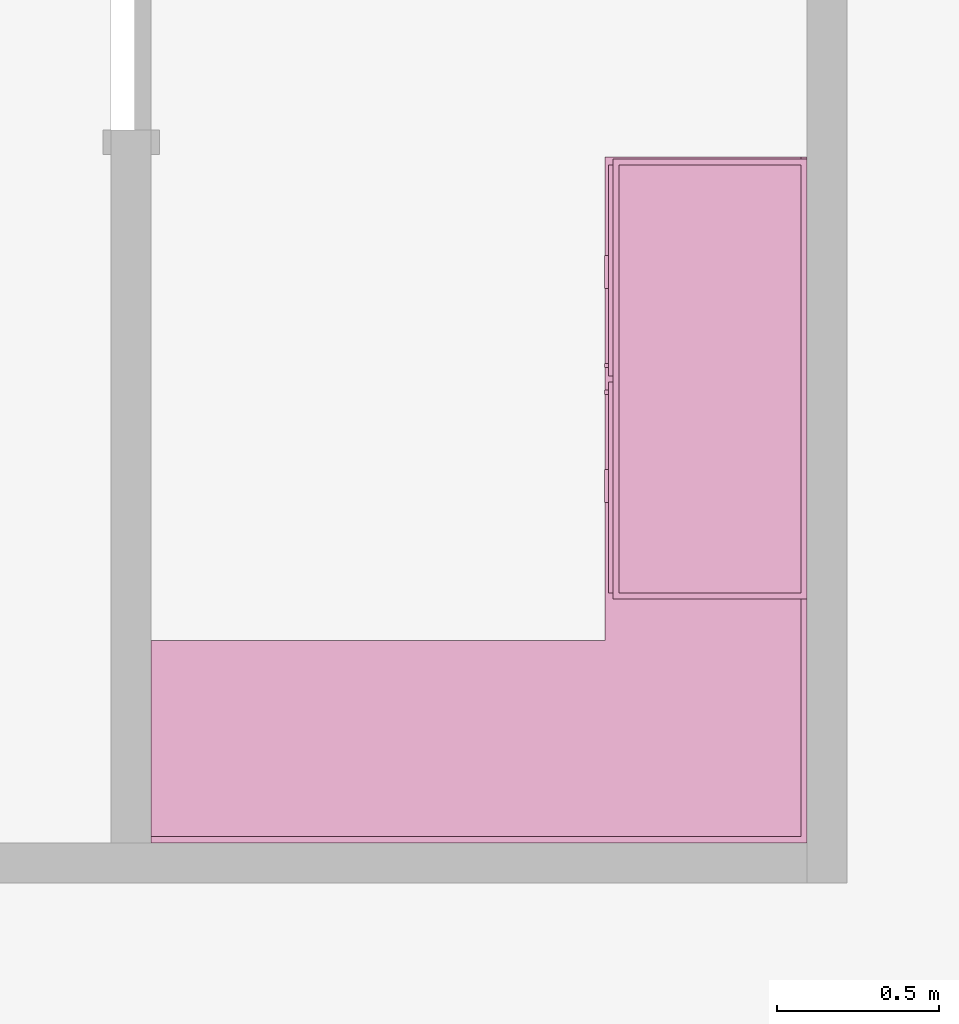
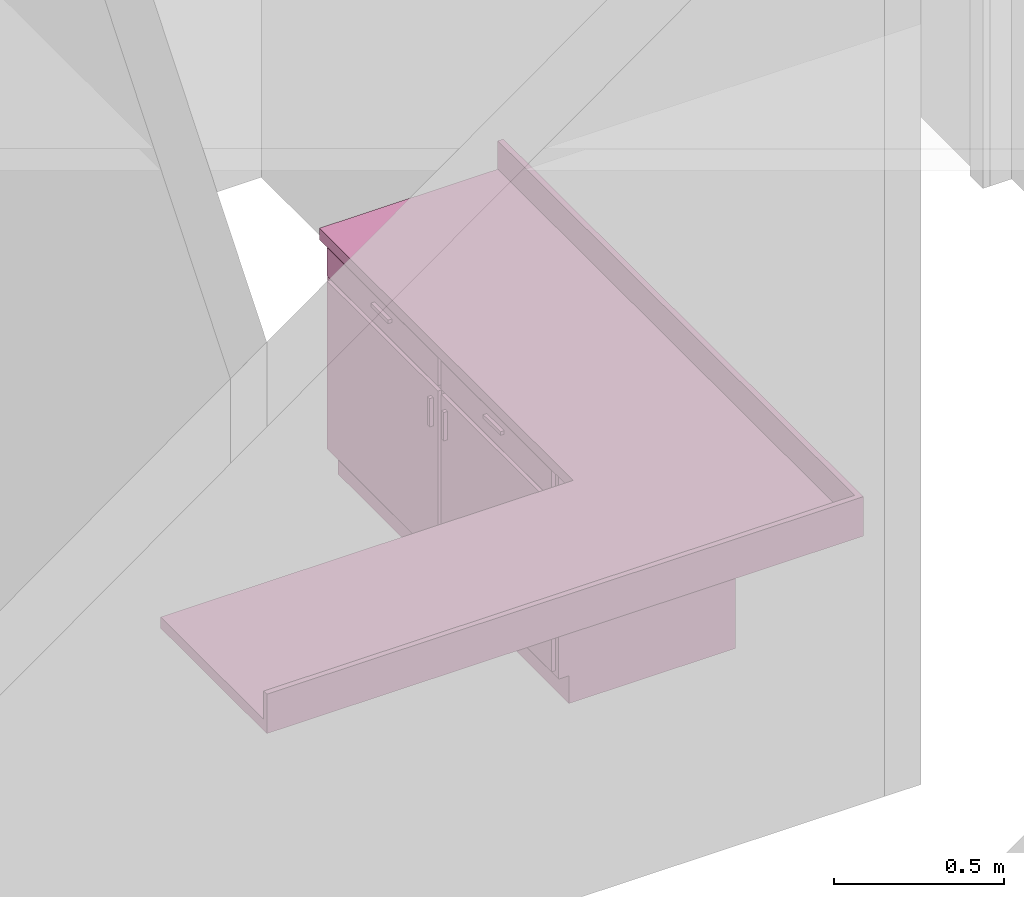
# One storey, part 45 of 45: 2 furnishings.
"""IFC2X3 building model written with IfcOpenShell, lengths in metres."""

from ifc_helpers import new_model, entity, si_unit, converted_unit, frame, origin, place, context, project, spatial, face_set, surface_model, source, transform, mapped, type_object, type_shapes, element, save


model = new_model("IFC2X3")

# Units and contexts
model_context = context("Model", 3, precision=1e-09, world=origin())
plan_context = context("Plan", 3, precision=1e-09, world=origin())
ifc_project = project(units=[si_unit("LENGTHUNIT", "METRE"), si_unit("AREAUNIT", "SQUARE_METRE"), si_unit("VOLUMEUNIT", "CUBIC_METRE"), converted_unit("PLANEANGLEUNIT", "DEGREE", entity("IfcRatioMeasure", 0.01745329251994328), si_unit("PLANEANGLEUNIT", "RADIAN"), dimensions=[0, 0, 0, 0, 0, 0, 0]), si_unit("TIMEUNIT", "SECOND")], contexts=[model_context, plan_context])

# Site, building, storey, space
site_placement = place(None, origin())
site = spatial("IfcSite", under=ifc_project, at=site_placement, Name="Default", CompositionType="ELEMENT")
building_placement = place(site_placement, origin())
building = spatial("IfcBuilding", under=site, at=building_placement, CompositionType="ELEMENT")
storey_placement = place(building_placement, frame((0.0, 0.0, 4.570000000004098)))
storey = spatial("IfcBuildingStorey", under=building, at=storey_placement, Name="Second Floor", CompositionType="ELEMENT", Elevation=4.570000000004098)
space_placement = place(storey_placement, origin())
space = spatial("IfcSpace", under=storey, at=space_placement, Name="2A13", CompositionType="ELEMENT", InteriorOrExteriorSpace="INTERNAL")

# Furnishings
furniture_type_1 = type_object("IfcFurnitureType", Name="1360mm", AssemblyPlace="NOTDEFINED")
shared_shape_1 = source(origin(), model_context, "Body", "SurfaceModel", [
    surface_model("IfcFaceBasedSurfaceModel", [(1.340949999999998, 0.04445000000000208, 0.86000000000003), (1.340949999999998, 0.04445000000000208, 0.09999999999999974), (0.01905000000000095, 0.04445000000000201, 0.09999999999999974), (0.01905000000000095, 0.04445000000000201, 0.86000000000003), (1.359999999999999, 0.02540000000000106, 0.8600000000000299), (0.0, 0.02540000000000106, 0.8600000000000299), (1.359999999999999, 0.02540000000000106, 0.09999999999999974), (0.0, 0.02540000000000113, 0.0999999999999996), (0.01905000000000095, 0.6063499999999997, 0.86000000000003), (0.01905000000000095, 0.6063499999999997, 0.09999999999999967), (0.01905000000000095, 0.06040000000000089, 0.09999999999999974), (0.0, 0.6254000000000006, 0.8600000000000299), (0.0, 0.6254000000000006, 0.0), (0.0, 0.06040000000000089, 0.0), (0.0, 0.06040000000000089, 0.09999999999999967), (1.340949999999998, 0.6063499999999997, 0.86000000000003), (1.340949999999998, 0.6063499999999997, 0.09999999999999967), (1.359999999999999, 0.6254000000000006, 0.8600000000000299), (1.359999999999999, 0.6254000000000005, 0.0), (1.340949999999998, 0.06040000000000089, 0.09999999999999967), (1.359999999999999, 0.06040000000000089, 0.09999999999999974), (1.359999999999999, 0.06040000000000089, 0.0), (0.4003250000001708, 0.0, 0.8155500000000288), (0.4003250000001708, 0.0, 0.8028500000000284), (0.2987250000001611, 0.0, 0.8028500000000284), (0.2987250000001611, 0.0, 0.8155500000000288), (1.061275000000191, 0.0, 0.8155500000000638), (1.061275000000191, 0.0, 0.8028500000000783), (0.9596750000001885, 0.0, 0.8028500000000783), (0.9596750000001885, 0.0, 0.8155500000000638), (0.6450750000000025, 0.0, 0.6822000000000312), (0.6450750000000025, 0.0, 0.5806000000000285), (0.6323750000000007, 0.0, 0.5806000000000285), (0.6323750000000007, 0.0, 0.6822000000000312), (0.7276249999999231, 0.0, 0.6822000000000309), (0.7276249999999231, 0.0, 0.5806000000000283), (0.7149249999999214, 0.0, 0.5806000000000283), (0.7149249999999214, 0.0, 0.6822000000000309), (0.4003250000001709, 0.01270000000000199, 0.8155500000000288), (0.4003250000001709, 0.01270000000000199, 0.8028500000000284), (0.2987250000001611, 0.01270000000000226, 0.8028500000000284), (0.2987250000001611, 0.01270000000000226, 0.8155500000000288), (1.061275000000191, 0.01269999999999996, 0.8155500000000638), (1.061275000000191, 0.01269999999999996, 0.8028500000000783), (0.9596750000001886, 0.01270000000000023, 0.8028500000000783), (0.9596750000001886, 0.01270000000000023, 0.8155500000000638), (0.6450750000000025, 0.01270000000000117, 0.6822000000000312), (0.6450750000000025, 0.01270000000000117, 0.5806000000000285), (0.6323750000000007, 0.01270000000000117, 0.5806000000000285), (0.6323750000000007, 0.01270000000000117, 0.6822000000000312), (0.7276249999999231, 0.0127000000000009, 0.6822000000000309), (0.7276249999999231, 0.0127000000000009, 0.5806000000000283), (0.7149249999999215, 0.01270000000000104, 0.5806000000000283), (0.7149249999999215, 0.01270000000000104, 0.6822000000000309), (0.6704749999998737, 0.01270000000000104, 0.8409500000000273), (0.6704749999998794, 0.01270000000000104, 0.7393500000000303), (0.01905000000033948, 0.01270000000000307, 0.7393500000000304), (0.01905000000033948, 0.01270000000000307, 0.8409500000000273), (1.340950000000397, 0.01269999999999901, 0.8409500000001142), (1.340950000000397, 0.01269999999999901, 0.7393500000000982), (0.6895249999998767, 0.01270000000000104, 0.7393500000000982), (0.6895249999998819, 0.01270000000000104, 0.8409500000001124), (0.6704749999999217, 0.01270000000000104, 0.7203000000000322), (0.6704749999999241, 0.01270000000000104, 0.1190499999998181), (0.01905000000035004, 0.01270000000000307, 0.1190499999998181), (0.01905000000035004, 0.01270000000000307, 0.7203000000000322), (1.340950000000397, 0.01269999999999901, 0.7203000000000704), (1.340950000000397, 0.01269999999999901, 0.1190499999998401), (0.6895249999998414, 0.01270000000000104, 0.1190499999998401), (0.6895249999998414, 0.01270000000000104, 0.7203000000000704), (0.6704749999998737, 0.025400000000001, 0.8409500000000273), (0.6704749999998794, 0.025400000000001, 0.7393500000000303), (0.01905000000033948, 0.02540000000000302, 0.7393500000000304), (0.01905000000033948, 0.02540000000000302, 0.8409500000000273), (1.340950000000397, 0.02539999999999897, 0.8409500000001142), (1.340950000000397, 0.02539999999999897, 0.7393500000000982), (0.6895249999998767, 0.02540000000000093, 0.7393500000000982), (0.6895249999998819, 0.02540000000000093, 0.8409500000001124), (0.6704749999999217, 0.025400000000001, 0.7203000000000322), (0.6704749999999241, 0.025400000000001, 0.1190499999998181), (0.01905000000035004, 0.02540000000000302, 0.1190499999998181), (0.01905000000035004, 0.02540000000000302, 0.7203000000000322), (1.340950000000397, 0.02539999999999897, 0.7203000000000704), (1.340950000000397, 0.02539999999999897, 0.1190499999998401), (0.6895249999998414, 0.02540000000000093, 0.1190499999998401), (0.6895249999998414, 0.02540000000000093, 0.7203000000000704), (1.340949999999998, 0.6063499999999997, 0.1190499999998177), (1.340949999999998, 0.04445000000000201, 0.1190499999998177), (0.01905000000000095, 0.04445000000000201, 0.1190499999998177), (0.01905000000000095, 0.6063499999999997, 0.1190499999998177), (1.340949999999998, 0.04445000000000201, 0.09999999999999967), (0.01905000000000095, 0.04445000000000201, 0.09999999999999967)], [face_set([[[0, 1, 2, 3]], [[0, 4, 5, 3]], [[4, 6, 7, 5]], [[2, 1, 6, 7]], [[3, 8, 9, 10, 2]], [[5, 11, 8, 3]], [[7, 5, 11, 12, 13, 14]], [[2, 7, 14, 10]], [[8, 15, 16, 9]], [[11, 17, 15, 8]], [[12, 11, 17, 18]], [[1, 19, 16, 15, 0]], [[0, 15, 17, 4]], [[4, 6, 20, 21, 18, 17]], [[6, 1, 19, 20]], [[10, 9, 16, 19]], [[18, 21, 13, 12]], [[13, 14, 10, 19, 20, 21]]]), face_set([[[22, 23, 24, 25]], [[26, 27, 28, 29]], [[30, 31, 32, 33]], [[34, 35, 36, 37]], [[38, 39, 40, 41]], [[42, 43, 44, 45]], [[46, 47, 48, 49]], [[50, 51, 52, 53]], [[25, 41, 38, 22]], [[24, 40, 41, 25]], [[23, 24, 40, 39]], [[22, 23, 39, 38]], [[29, 45, 42, 26]], [[28, 44, 45, 29]], [[27, 28, 44, 43]], [[26, 27, 43, 42]], [[33, 49, 46, 30]], [[32, 48, 49, 33]], [[31, 32, 48, 47]], [[30, 31, 47, 46]], [[37, 53, 50, 34]], [[36, 52, 53, 37]], [[35, 36, 52, 51]], [[34, 35, 51, 50]]]), face_set([[[54, 55, 56, 57]], [[58, 59, 60, 61]], [[62, 63, 64, 65]], [[66, 67, 68, 69]], [[70, 71, 72, 73]], [[74, 75, 76, 77]], [[78, 79, 80, 81]], [[82, 83, 84, 85]], [[57, 73, 70, 54]], [[56, 57, 73, 72]], [[55, 56, 72, 71]], [[54, 55, 71, 70]], [[61, 77, 74, 58]], [[60, 76, 77, 61]], [[59, 60, 76, 75]], [[58, 59, 75, 74]], [[65, 81, 78, 62]], [[64, 65, 81, 80]], [[63, 64, 80, 79]], [[62, 63, 79, 78]], [[69, 85, 82, 66]], [[68, 84, 85, 69]], [[67, 68, 84, 83]], [[66, 67, 83, 82]]]), face_set([[[86, 87, 88, 89]], [[16, 90, 91, 9]], [[89, 86, 16, 9]], [[88, 89, 9, 91]], [[87, 90, 91, 88]], [[86, 87, 90, 16]]])]),
])
type_shapes(furniture_type_1, [shared_shape_1])
furnishing_1_placement = place(space_placement, frame((-6.729400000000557, 43.49145176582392, 0.0), z_axis=(0.0, 0.0, 1.0), x_axis=(0.0, -1.0, 0.0)))
element("IfcFurnishingElement", 1, at=furnishing_1_placement, inside=space, type_object=furniture_type_1, Name="M_Base Cabinet-Double Door & 2 Drawer:1360mm:1360mm", ObjectType="1360mm", context=model_context, shape_type="MappedRepresentation", body=[
    mapped(shared_shape_1, transform((0.0, 0.0, 0.0), scale=1.0)),
])
furniture_type_2 = type_object("IfcFurnitureType", Name="600mm Depth", AssemblyPlace="NOTDEFINED")
shared_shape_2 = source(origin(), model_context, "Body", "SurfaceModel", [
    surface_model("IfcFaceBasedSurfaceModel", [(0.6249999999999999, 0.0, 0.04000000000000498), (0.6249999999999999, 1.493042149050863, 0.04000000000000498), (2.026, 1.493042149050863, 0.04000000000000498), (2.026, 2.098992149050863, 0.04000000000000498), (0.01904999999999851, 2.098992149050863, 0.04000000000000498), (0.01904999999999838, 0.0, 0.04000000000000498), (2.026, 2.118042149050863, 0.0), (2.026, 1.493042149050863, 0.0), (0.6249999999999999, 1.493042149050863, 0.0), (0.6249999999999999, 0.0, 0.0), (0.0, 0.0, 0.0), (0.0, 2.118042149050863, 0.0), (0.0, 2.118042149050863, 0.1416000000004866), (2.026, 2.118042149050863, 0.1416000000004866), (0.0, 0.0, 0.1416000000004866), (0.01904999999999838, 0.0, 0.1416000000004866), (2.026, 2.098992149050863, 0.1416000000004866), (0.01904999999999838, 2.098992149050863, 0.1416000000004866)], [face_set([[[0, 1, 2, 3, 4, 5]], [[6, 7, 8, 9, 10, 11]], [[6, 11, 12, 13]], [[11, 12, 14, 10]], [[14, 15, 5, 0, 9, 10]], [[1, 0, 9, 8]], [[2, 7, 8, 1]], [[7, 6, 13, 16, 3, 2]], [[12, 13, 16, 17, 15, 14]], [[3, 4, 17, 16]], [[17, 15, 5, 4]]])]),
])
type_shapes(furniture_type_2, [shared_shape_2])
furnishing_2_placement = place(space_placement, frame((-6.10400000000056, 43.49648085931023, 0.8600000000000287), z_axis=(0.0, 0.0, 1.0), x_axis=(-1.0, 0.0, 0.0)))
element("IfcFurnishingElement", 2, at=furnishing_2_placement, inside=space, type_object=furniture_type_2, Name="M_Counter Top-L Shaped:600mm Depth:600mm Depth", ObjectType="600mm Depth", context=model_context, shape_type="MappedRepresentation", body=[
    mapped(shared_shape_2, transform((0.0, 0.0, 0.0), scale=1.0)),
])

save(model, "model.ifc")
